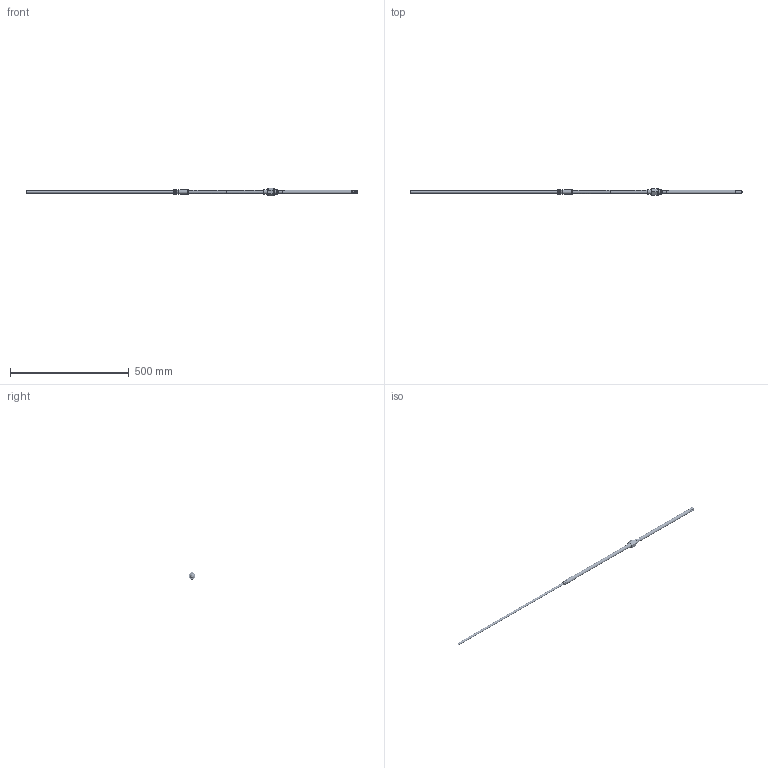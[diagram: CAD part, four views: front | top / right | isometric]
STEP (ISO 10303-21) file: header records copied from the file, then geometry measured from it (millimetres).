
FILE_DESCRIPTION(/* description */ (''),/* implementation_level */ '2;1');
FILE_NAME(/* name */ '\\SERVERB\PdfTecnico\Modelli 3D per sito internet\8-Cavi\M90 Estetica.stp',/* time_stamp */ '2021-02-08T11:18:43+01:00',/* author */ ('w.trivella'),/* organization */ (''),/* preprocessor_version */ 'ST-DEVELOPER v18',/* originating_system */ 'Autodesk Inventor 2020',/* authorisation */ '');
FILE_SCHEMA (('AUTOMOTIVE_DESIGN { 1 0 10303 214 3 1 1 }'));
Products named in the file (21): M90;  7340;  8832;  8833; 30594; 31309; 7349; 7343 ; 16306; 30592; 9398; 33797 cavo elicoidale l.TIM.SEMPLIFICATO; 33798 ; 33801; 29921; 16705 ; 31147; 11127; 33798 _1; 33801_1; 8830
Assembly tree (22 placements, depth 3):
  M90
     7340
     8832
     8833
    30594
    31147  x2
    31309
    7349
    7343 
    16306
    30592
    9398
    16705   x2
    33797 cavo elicoidale l.TIM.SEMPLIFICATO
      33798 
      33801
    29921
    11127
      33798 _1
      33801_1
    8830
Bounding box: 1398.17 x 28 x 32.33 mm (x, y, z)
Volume: 166741.4 mm3; surface area: 257034 mm2
Topology: 78 solids, 78 shells, 494 faces, 2134 edges, 1813 vertices
Faces by surface type: plane 182, cylinder 172, bspline 62, cone 57, torus 20, sphere 1
Full cylindrical faces by diameter (mm): 4.26 x2, 4.7 x1, 6.2 x1, 7 x3, 7.1 x1, 7.3 x1, 8.5 x5, 8.6 x1, 8.9 x2, 9.8 x1, 10 x2, 10.3 x2, 10.6 x1, 10.8 x1, 11 x2, 11.1 x1, 11.2 x1, 11.6 x2, 11.8 x1, 12.3 x1, 12.6 x1, 13 x1, 13.3 x1, 13.4 x1, 13.5 x1, 13.6 x1, 14 x1, 14.2 x1, 14.3 x1, 15.5 x3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
Entity records: 50813 total; most frequent: CARTESIAN_POINT 36573, ORIENTED_EDGE 3658, DIRECTION 1931, EDGE_CURVE 1829, VERTEX_POINT 1599, B_SPLINE_CURVE_WITH_KNOTS 1135, AXIS2_PLACEMENT_3D 908, CIRCLE 552
